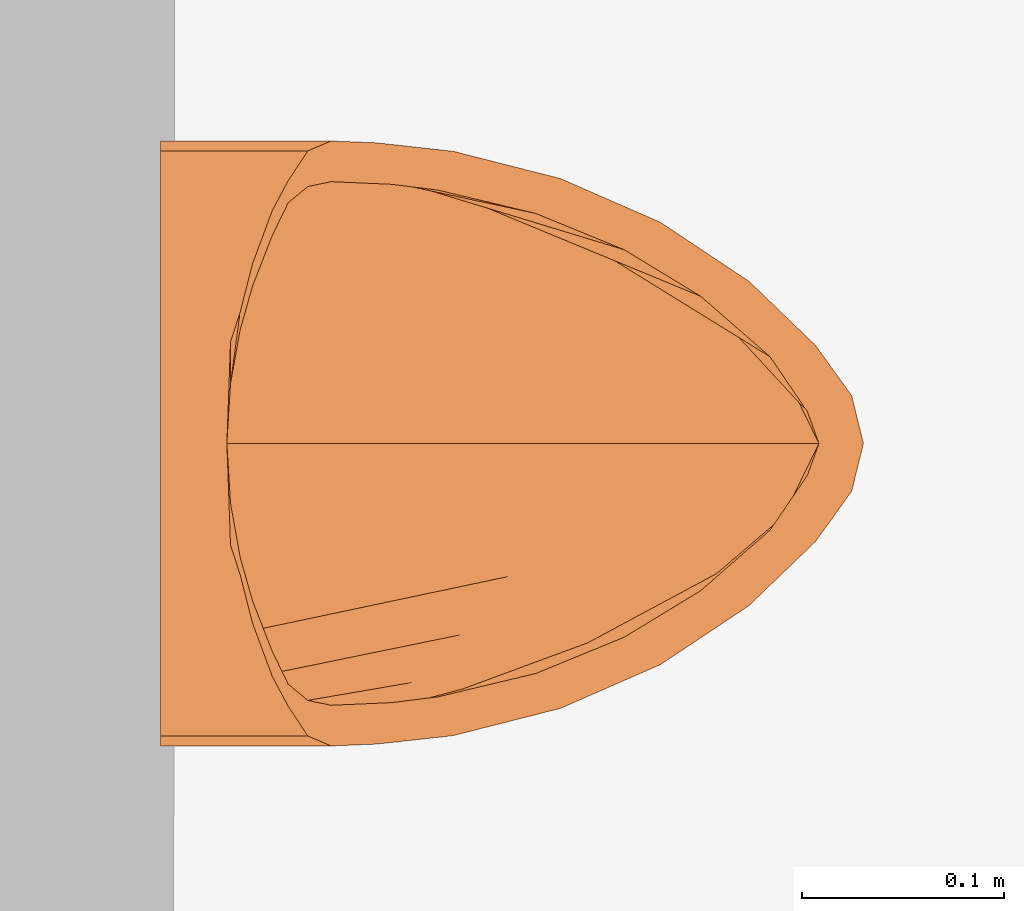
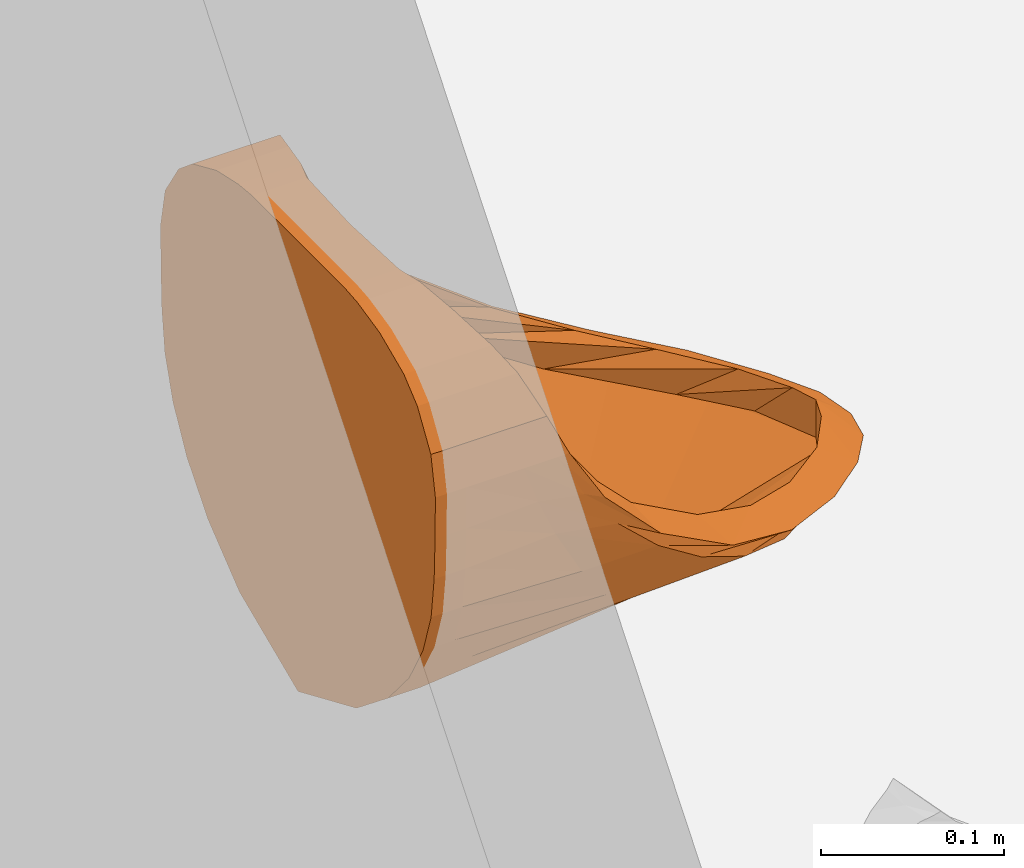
# One storey, part 195 of 196: 1 proxy.
"""IFC2X3 building model written with IfcOpenShell, lengths in metres."""

from ifc_helpers import new_model, entity, si_unit, converted_unit, derived_unit, money_unit, direction, frame, origin_with_axes, place, context, subcontext, project, spatial, open_shell, faceted_brep, surface_model, type_object, element, save


model = new_model("IFC2X3")

# Units and contexts
model_context = context("Model", 3, precision=1e-05, world=origin_with_axes(), true_north=direction((0.0, 1.0)))
body_context = subcontext(model_context, "Body", "Model", "MODEL_VIEW")
ifc_project = project(units=[si_unit("LENGTHUNIT", "METRE"), si_unit("AREAUNIT", "SQUARE_METRE"), si_unit("VOLUMEUNIT", "CUBIC_METRE"), converted_unit("PLANEANGLEUNIT", "DEGREE", entity("IfcPlaneAngleMeasure", 0.0174532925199), si_unit("PLANEANGLEUNIT", "RADIAN"), dimensions=[0, 0, 0, 0, 0, 0, 0]), money_unit("EUR"), converted_unit("TIMEUNIT", "Year", entity("IfcTimeMeasure", 31556926.0), si_unit("TIMEUNIT", "SECOND"), dimensions=[0, 0, 1, 0, 0, 0, 0]), si_unit("MASSUNIT", "GRAM", prefix="KILO"), si_unit("THERMODYNAMICTEMPERATUREUNIT", "DEGREE_CELSIUS"), si_unit("LUMINOUSINTENSITYUNIT", "LUMEN"), si_unit("ENERGYUNIT", "JOULE", prefix="MEGA"), derived_unit("THERMALCONDUCTANCEUNIT", [(si_unit("POWERUNIT", "WATT"), 1), (si_unit("LENGTHUNIT", "METRE"), -1), (si_unit("THERMODYNAMICTEMPERATUREUNIT", "KELVIN"), -1)]), derived_unit("SPECIFICHEATCAPACITYUNIT", [(si_unit("ENERGYUNIT", "JOULE"), 1), (si_unit("MASSUNIT", "GRAM", prefix="KILO"), -1), (si_unit("THERMODYNAMICTEMPERATUREUNIT", "KELVIN"), -1)]), derived_unit("MASSDENSITYUNIT", [(si_unit("MASSUNIT", "GRAM", prefix="KILO"), 1), (si_unit("VOLUMEUNIT", "CUBIC_METRE"), -1)])], contexts=[model_context])

# Site, building, storey
site_placement = place(None, origin_with_axes())
site = spatial("IfcSite", under=ifc_project, at=site_placement, Name="Gelände", CompositionType="ELEMENT")
building_placement = place(site_placement, origin_with_axes())
building = spatial("IfcBuilding", under=site, at=building_placement, Name="Gebäude", CompositionType="ELEMENT")
storey_placement = place(building_placement, frame((0.0, 0.0, -3.0), z_axis=(0.0, 0.0, 1.0), x_axis=(1.0, 0.0, 0.0)))
storey = spatial("IfcBuildingStorey", under=building, at=storey_placement, Name="KELLERGESCHOSS", CompositionType="ELEMENT", Elevation=-3.0)

# Proxy
building_element_proxy_type = type_object("IfcBuildingElementProxyType", Name="Urinal 1 25", PredefinedType="NOTDEFINED")
proxy_placement = place(storey_placement, frame((13.3724467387, 24.3963338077, -0.151496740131), z_axis=(0.0, 0.0, 1.0), x_axis=(0.0, 1.0, 0.0)))
element("IfcBuildingElementProxy", 1, at=proxy_placement, inside=storey, type_object=building_element_proxy_type, Name="Objekt-00220", context=body_context, shape_type="SurfaceModel", body=[
    faceted_brep([(0.0, 0.00657643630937, 1.0), (-0.0503710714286, 0.00657643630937, 0.999898), (-0.0503710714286, 0.0, 0.999898), (0.0, 0.0, 1.0), (0.0503710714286, 0.00657643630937, 0.999898), (0.0650260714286, 0.00657643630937, 0.998525), (0.0890367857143, 0.00657643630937, 0.993198), (0.115533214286, 0.00657643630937, 0.981535), (0.130329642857, 0.00657643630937, 0.969181), (0.1451025, 0.00657643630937, 0.945871), (0.15, 0.00657643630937, 0.920148), (0.149671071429, 0.00657643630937, 0.89263), (0.148683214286, 0.00657643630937, 0.865111), (0.145370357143, 0.00657643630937, 0.837593), (0.136527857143, 0.00657643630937, 0.810074), (0.121330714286, 0.00657643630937, 0.782556), (0.0982478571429, 0.00657643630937, 0.755037), (0.0638796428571, 0.00657643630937, 0.727519), (0.0, 0.00657643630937, 0.7), (-0.0638796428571, 0.00657643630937, 0.727519), (-0.0982478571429, 0.00657643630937, 0.755037), (-0.121330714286, 0.00657643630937, 0.782556), (-0.136527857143, 0.00657643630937, 0.810074), (-0.145370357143, 0.00657643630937, 0.837593), (-0.148683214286, 0.00657643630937, 0.865111), (-0.149671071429, 0.00657643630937, 0.89263), (-0.15, 0.00657643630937, 0.920148), (-0.1451025, 0.00657643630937, 0.945871), (-0.130329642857, 0.00657643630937, 0.969181), (-0.115533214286, 0.00657643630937, 0.981535), (-0.0890367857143, 0.00657643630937, 0.993198), (-0.0650260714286, 0.00657643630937, 0.998525), (-0.0650260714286, 0.0, 0.998525), (-0.0890367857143, 0.0, 0.993198), (-0.115533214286, 0.0, 0.981535), (-0.130329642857, 0.0, 0.969181), (-0.1451025, 0.0, 0.945871), (-0.15, 0.0, 0.920148), (-0.149671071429, 0.0, 0.89263), (-0.148683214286, 0.0, 0.865111), (-0.145370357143, 0.0, 0.837593), (-0.136527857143, 0.0, 0.810074), (-0.121330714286, 0.0, 0.782556), (-0.0982478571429, 0.0, 0.755037), (-0.0638796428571, 0.0, 0.727519), (0.0, 0.0, 0.7), (0.0638796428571, 0.0, 0.727519), (0.0982478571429, 0.0, 0.755037), (0.121330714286, 0.0, 0.782556), (0.136527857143, 0.0, 0.810074), (0.145370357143, 0.0, 0.837593), (0.148683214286, 0.0, 0.865111), (0.149671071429, 0.0, 0.89263), (0.15, 0.0, 0.920148), (0.1451025, 0.0, 0.945871), (0.130329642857, 0.0, 0.969181), (0.115533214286, 0.0, 0.981535), (0.0890367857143, 0.0, 0.993198), (0.0650260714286, 0.0, 0.998525), (0.0503710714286, 0.0, 0.999898)], [[[0, 1, 2, 3]], [[0, 4, 5, 6, 7, 8, 9, 10, 11, 12, 13, 14, 15, 16, 17, 18, 19, 20, 21, 22, 23, 24, 25, 26, 27, 28, 29, 30, 31, 1]], [[1, 31, 32, 2]], [[3, 2, 32, 33, 34, 35, 36, 37, 38, 39, 40, 41, 42, 43, 44, 45, 46, 47, 48, 49, 50, 51, 52, 53, 54, 55, 56, 57, 58, 59]], [[4, 0, 3, 59]], [[5, 4, 59, 58]], [[6, 5, 58, 57]], [[7, 6, 57, 56]], [[8, 7, 56, 55]], [[9, 8, 55, 54]], [[10, 9, 54, 53]], [[11, 10, 53, 52]], [[12, 11, 52, 51]], [[13, 12, 51, 50]], [[14, 13, 50, 49]], [[15, 14, 49, 48]], [[16, 15, 48, 47]], [[17, 16, 47, 46]], [[18, 17, 46, 45]], [[19, 18, 45, 44]], [[20, 19, 44, 43]], [[21, 20, 43, 42]], [[22, 21, 42, 41]], [[23, 22, 41, 40]], [[24, 23, 40, 39]], [[25, 24, 39, 38]], [[26, 25, 38, 37]], [[27, 26, 37, 36]], [[28, 27, 36, 35]], [[29, 28, 35, 34]], [[30, 29, 34, 33]], [[31, 30, 33, 32]]]),
    surface_model("IfcShellBasedSurfaceModel", [(0.0, 0.0, 1.0), (0.0, -0.0131528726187, 1.0), (-0.0503710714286, -0.0131528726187, 0.999898), (0.0503710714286, 0.0, 0.999898), (-0.0503710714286, -0.019774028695, 0.999898), (-0.0503710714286, 0.0, 0.999898), (0.0503710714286, -0.0131528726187, 0.999898), (0.0, -0.0197293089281, 1.0), (-0.0650260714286, -0.0203777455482, 0.998525), (-0.0650260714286, -0.0131528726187, 0.998525), (0.0650260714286, 0.0, 0.998525), (-0.0503710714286, -0.0253127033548, 0.999898), (-0.0650260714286, -0.0261650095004, 0.998525), (-0.0650260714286, 0.0, 0.998525), (0.0650260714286, -0.0131528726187, 0.998525), (0.0503710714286, -0.019774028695, 0.999898), (0.0, -0.0252443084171, 1.0), (-0.0890367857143, -0.029683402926, 0.993198), (-0.0890367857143, -0.0226860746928, 0.993198), (-0.0890367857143, -0.0131528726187, 0.993198), (0.0890367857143, 0.0, 0.993198), (-0.0503710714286, -0.0281076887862, 0.999898), (-0.0650260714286, -0.032872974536, 0.998525), (-0.0890367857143, -0.0389995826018, 0.993198), (-0.0890367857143, 0.0, 0.993198), (0.0890367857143, -0.0131528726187, 0.993198), (0.0650260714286, -0.0203777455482, 0.998525), (0.0503710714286, -0.0253127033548, 0.999898), (0.0, -0.0263057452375, 1.0), (-0.115533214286, -0.0488379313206, 0.981535), (-0.115533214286, -0.0370174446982, 0.981535), (-0.115533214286, -0.0275578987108, 0.981535), (-0.115533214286, -0.0131528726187, 0.981535), (0.115533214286, 0.0, 0.981535), (-0.115533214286, 0.0, 0.981535), (0.115533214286, -0.0131528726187, 0.981535), (0.0890367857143, -0.0226860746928, 0.993198), (0.0650260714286, -0.0261650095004, 0.998525), (0.0503710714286, -0.0281076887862, 0.999898), (-0.130329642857, -0.0567257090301, 0.969181), (-0.130329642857, -0.0444133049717, 0.969181), (-0.130329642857, -0.0324507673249, 0.969181), (-0.130329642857, -0.0131528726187, 0.969181), (0.130329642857, 0.0, 0.969181), (-0.130329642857, 0.0, 0.969181), (0.130329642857, -0.0131528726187, 0.969181), (0.115533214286, -0.0275578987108, 0.981535), (0.0890367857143, -0.029683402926, 0.993198), (0.0650260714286, -0.032872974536, 0.998525), (-0.1451025, -0.0664746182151, 0.945871), (-0.1451025, -0.057358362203, 0.945871), (-0.1451025, -0.0409448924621, 0.945871), (-0.1451025, -0.0131528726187, 0.945871), (0.1451025, 0.0, 0.945871), (-0.1451025, 0.0, 0.945871), (0.1451025, -0.0131528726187, 0.945871), (0.130329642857, -0.0324507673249, 0.969181), (0.115533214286, -0.0370174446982, 0.981535), (0.0890367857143, -0.0389995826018, 0.993198), (-0.15, -0.0780386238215, 0.920148), (-0.15, -0.0701705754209, 0.920148), (-0.15, -0.0492193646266, 0.920148), (-0.15, -0.0131528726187, 0.920148), (0.15, 0.0, 0.920148), (-0.15, 0.0, 0.920148), (0.15, -0.0131528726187, 0.920148), (0.1451025, -0.0409448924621, 0.945871), (0.130329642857, -0.0444133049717, 0.969181), (0.115533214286, -0.0488379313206, 0.981535), (-0.149088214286, -0.100704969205, 0.882346), (-0.148938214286, -0.0879703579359, 0.888729), (-0.148493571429, -0.0588854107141, 0.893637), (-0.149671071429, -0.0131528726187, 0.89263), (0.149671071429, 0.0, 0.89263), (-0.149671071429, 0.0, 0.89263), (0.149671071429, -0.0131528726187, 0.89263), (0.15, -0.0492193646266, 0.920148), (0.1451025, -0.057358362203, 0.945871), (0.130329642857, -0.0567257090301, 0.969181), (-0.144867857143, -0.138576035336, 0.842424), (-0.146004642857, -0.110916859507, 0.859303), (-0.1458225, -0.0713503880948, 0.866246), (-0.148683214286, -0.0131528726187, 0.865111), (0.148683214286, 0.0, 0.865111), (-0.148683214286, 0.0, 0.865111), (0.148683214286, -0.0131528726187, 0.865111), (0.148493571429, -0.0588854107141, 0.893637), (0.15, -0.0701705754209, 0.920148), (0.1451025, -0.0664746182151, 0.945871), (-0.131359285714, -0.191754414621, 0.807653), (-0.1416, -0.138632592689, 0.832354), (-0.137941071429, -0.092661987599, 0.829001), (-0.145370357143, -0.0131528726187, 0.837593), (0.145370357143, 0.0, 0.837593), (-0.145370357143, 0.0, 0.837593), (0.145370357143, -0.0131528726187, 0.837593), (0.1458225, -0.0713503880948, 0.866246), (0.148938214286, -0.0879703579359, 0.888729), (0.15, -0.0780386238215, 0.920148), (-0.109682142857, -0.241293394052, 0.787417), (-0.133041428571, -0.170661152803, 0.808327), (-0.118344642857, -0.119204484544, 0.792232), (-0.136527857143, -0.0131528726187, 0.810074), (0.136527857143, 0.0, 0.810074), (-0.136527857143, 0.0, 0.810074), (0.136527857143, -0.0131528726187, 0.810074), (0.137941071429, -0.092661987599, 0.829001), (0.146004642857, -0.110916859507, 0.859303), (0.149088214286, -0.100704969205, 0.882346), (-0.0803528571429, -0.285313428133, 0.776444), (-0.1187925, -0.206475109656, 0.787618), (-0.09477, -0.142754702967, 0.76517), (-0.121330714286, -0.0131528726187, 0.782556), (0.121330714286, 0.0, 0.782556), (-0.121330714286, 0.0, 0.782556), (0.121330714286, -0.0131528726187, 0.782556), (0.118344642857, -0.119204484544, 0.792232), (0.1416, -0.138632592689, 0.832354), (0.144867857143, -0.138576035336, 0.842424), (-0.0486064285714, -0.318235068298, 0.768676), (-0.0942653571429, -0.245482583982, 0.770567), (-0.0659742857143, -0.165889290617, 0.742159), (-0.0982478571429, -0.0131528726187, 0.755037), (0.0982478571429, 0.0, 0.755037), (-0.0982478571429, 0.0, 0.755037), (0.0982478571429, -0.0131528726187, 0.755037), (0.09477, -0.142754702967, 0.76517), (0.133041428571, -0.170661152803, 0.808327), (0.131359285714, -0.191754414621, 0.807653), (-0.0237192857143, -0.336140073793, 0.765137), (-0.0589767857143, -0.287041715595, 0.757456), (-0.0335507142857, -0.188126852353, 0.724265), (-0.0638796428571, -0.0131528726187, 0.727519), (0.0638796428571, 0.0, 0.727519), (-0.0638796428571, 0.0, 0.727519), (0.0638796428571, -0.0131528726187, 0.727519), (0.0659742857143, -0.165889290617, 0.742159), (0.1187925, -0.206475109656, 0.787618), (0.109682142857, -0.241293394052, 0.787417), (0.0, -0.341974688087, 0.763229), (0.0, -0.330467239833, 0.748501), (0.0, -0.208220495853, 0.712313), (0.0, -0.0131528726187, 0.7), (0.0, 0.0, 0.7), (0.0335507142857, -0.188126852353, 0.724265), (0.0942653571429, -0.245482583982, 0.770567), (0.0803528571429, -0.285313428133, 0.776444), (0.0237192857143, -0.336140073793, 0.765137), (0.0589767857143, -0.287041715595, 0.757456), (0.0486064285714, -0.318235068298, 0.768676)], [open_shell([[[0, 1, 2]], [[3, 1, 0]], [[1, 4, 2]], [[0, 2, 5]], [[3, 6, 1]], [[1, 7, 4]], [[2, 4, 8]], [[5, 2, 9]], [[10, 6, 3]], [[6, 7, 1]], [[7, 11, 4]], [[4, 12, 8]], [[2, 8, 9]], [[5, 9, 13]], [[10, 14, 6]], [[6, 15, 7]], [[7, 16, 11]], [[4, 11, 12]], [[8, 12, 17]], [[9, 8, 18]], [[13, 9, 19]], [[20, 14, 10]], [[14, 15, 6]], [[15, 16, 7]], [[16, 21, 11]], [[11, 22, 12]], [[12, 23, 17]], [[8, 17, 18]], [[9, 18, 19]], [[13, 19, 24]], [[20, 25, 14]], [[14, 26, 15]], [[15, 27, 16]], [[16, 28, 21]], [[11, 21, 22]], [[12, 22, 23]], [[17, 23, 29]], [[18, 17, 30]], [[19, 18, 31]], [[24, 19, 32]], [[33, 25, 20]], [[25, 26, 14]], [[26, 27, 15]], [[27, 28, 16]], [[17, 29, 30]], [[18, 30, 31]], [[19, 31, 32]], [[24, 32, 34]], [[33, 35, 25]], [[25, 36, 26]], [[26, 37, 27]], [[27, 38, 28]], [[30, 29, 39]], [[31, 30, 40]], [[32, 31, 41]], [[34, 32, 42]], [[43, 35, 33]], [[35, 36, 25]], [[36, 37, 26]], [[37, 38, 27]], [[30, 39, 40]], [[31, 40, 41]], [[32, 41, 42]], [[34, 42, 44]], [[43, 45, 35]], [[35, 46, 36]], [[36, 47, 37]], [[37, 48, 38]], [[40, 39, 49]], [[41, 40, 50]], [[42, 41, 51]], [[44, 42, 52]], [[53, 45, 43]], [[45, 46, 35]], [[46, 47, 36]], [[47, 48, 37]], [[40, 49, 50]], [[41, 50, 51]], [[42, 51, 52]], [[44, 52, 54]], [[53, 55, 45]], [[45, 56, 46]], [[46, 57, 47]], [[47, 58, 48]], [[50, 49, 59]], [[51, 50, 60]], [[52, 51, 61]], [[54, 52, 62]], [[63, 55, 53]], [[55, 56, 45]], [[56, 57, 46]], [[57, 58, 47]], [[50, 59, 60]], [[51, 60, 61]], [[52, 61, 62]], [[54, 62, 64]], [[63, 65, 55]], [[55, 66, 56]], [[56, 67, 57]], [[57, 68, 58]], [[60, 59, 69]], [[61, 60, 70]], [[62, 61, 71]], [[64, 62, 72]], [[73, 65, 63]], [[65, 66, 55]], [[66, 67, 56]], [[67, 68, 57]], [[60, 69, 70]], [[61, 70, 71]], [[62, 71, 72]], [[64, 72, 74]], [[73, 75, 65]], [[65, 76, 66]], [[66, 77, 67]], [[67, 78, 68]], [[70, 69, 79]], [[71, 70, 80]], [[72, 71, 81]], [[74, 72, 82]], [[83, 75, 73]], [[75, 76, 65]], [[76, 77, 66]], [[77, 78, 67]], [[70, 79, 80]], [[71, 80, 81]], [[72, 81, 82]], [[74, 82, 84]], [[83, 85, 75]], [[75, 86, 76]], [[76, 87, 77]], [[77, 88, 78]], [[80, 79, 89]], [[81, 80, 90]], [[82, 81, 91]], [[84, 82, 92]], [[93, 85, 83]], [[85, 86, 75]], [[86, 87, 76]], [[87, 88, 77]], [[80, 89, 90]], [[81, 90, 91]], [[82, 91, 92]], [[84, 92, 94]], [[93, 95, 85]], [[85, 96, 86]], [[86, 97, 87]], [[87, 98, 88]], [[90, 89, 99]], [[91, 90, 100]], [[92, 91, 101]], [[94, 92, 102]], [[103, 95, 93]], [[95, 96, 85]], [[96, 97, 86]], [[97, 98, 87]], [[90, 99, 100]], [[91, 100, 101]], [[92, 101, 102]], [[94, 102, 104]], [[103, 105, 95]], [[95, 106, 96]], [[96, 107, 97]], [[97, 108, 98]], [[100, 99, 109]], [[101, 100, 110]], [[102, 101, 111]], [[104, 102, 112]], [[113, 105, 103]], [[105, 106, 95]], [[106, 107, 96]], [[107, 108, 97]], [[100, 109, 110]], [[101, 110, 111]], [[102, 111, 112]], [[104, 112, 114]], [[113, 115, 105]], [[105, 116, 106]], [[106, 117, 107]], [[107, 118, 108]], [[110, 109, 119]], [[111, 110, 120]], [[112, 111, 121]], [[114, 112, 122]], [[123, 115, 113]], [[115, 116, 105]], [[116, 117, 106]], [[117, 118, 107]], [[110, 119, 120]], [[111, 120, 121]], [[112, 121, 122]], [[114, 122, 124]], [[123, 125, 115]], [[115, 126, 116]], [[116, 127, 117]], [[117, 128, 118]], [[120, 119, 129]], [[121, 120, 130]], [[122, 121, 131]], [[124, 122, 132]], [[133, 125, 123]], [[125, 126, 115]], [[126, 127, 116]], [[127, 128, 117]], [[120, 129, 130]], [[121, 130, 131]], [[122, 131, 132]], [[124, 132, 134]], [[133, 135, 125]], [[125, 136, 126]], [[126, 137, 127]], [[127, 138, 128]], [[130, 129, 139]], [[131, 130, 140]], [[132, 131, 141]], [[134, 132, 142]], [[143, 135, 133]], [[135, 136, 125]], [[136, 137, 126]], [[137, 138, 127]], [[130, 139, 140]], [[131, 140, 141]], [[132, 141, 142]], [[134, 142, 143]], [[143, 142, 135]], [[135, 144, 136]], [[136, 145, 137]], [[137, 146, 138]], [[140, 139, 147]], [[141, 140, 148]], [[142, 141, 144]], [[142, 144, 135]], [[144, 145, 136]], [[145, 146, 137]], [[140, 147, 148]], [[141, 148, 144]], [[144, 148, 145]], [[145, 149, 146]], [[148, 147, 149]], [[148, 149, 145]]])]),
    surface_model("IfcShellBasedSurfaceModel", [(0.0, -0.0263057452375, 1.0), (0.0, -0.0263057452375, 0.99), (-0.0295992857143, -0.0281076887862, 0.988966), (0.0503710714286, -0.0281076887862, 0.999898), (-0.0503710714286, -0.0281076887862, 0.999898), (0.0295992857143, -0.0281076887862, 0.988966), (-0.056325, -0.032872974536, 0.98626), (0.0650260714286, -0.032872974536, 0.998525), (-0.0650260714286, -0.032872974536, 0.998525), (0.056325, -0.032872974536, 0.98626), (-0.0779764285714, -0.0389995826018, 0.98082), (0.0890367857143, -0.0389995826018, 0.993198), (-0.0890367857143, -0.0389995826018, 0.993198), (0.0779764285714, -0.0389995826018, 0.98082), (-0.103178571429, -0.0488379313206, 0.968491), (0.115533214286, -0.0488379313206, 0.981535), (-0.115533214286, -0.0488379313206, 0.981535), (0.103178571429, -0.0488379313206, 0.968491), (-0.119395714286, -0.0567257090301, 0.952746), (0.130329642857, -0.0567257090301, 0.969181), (-0.130329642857, -0.0567257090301, 0.969181), (0.119395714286, -0.0567257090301, 0.952746), (-0.127429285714, -0.0664746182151, 0.936322), (0.1451025, -0.0664746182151, 0.945871), (-0.1451025, -0.0664746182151, 0.945871), (0.127429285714, -0.0664746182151, 0.936322), (-0.129833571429, -0.0780386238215, 0.920148), (0.15, -0.0780386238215, 0.920148), (-0.15, -0.0780386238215, 0.920148), (0.129833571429, -0.0780386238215, 0.920148), (-0.128517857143, -0.107823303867, 0.87807), (0.149088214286, -0.100704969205, 0.882346), (-0.149088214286, -0.100704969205, 0.882346), (0.128517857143, -0.107823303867, 0.87807), (-0.125659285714, -0.130925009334, 0.854025), (0.144867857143, -0.138576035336, 0.842424), (-0.144867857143, -0.138576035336, 0.842424), (0.125659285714, -0.130925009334, 0.854025), (-0.114079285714, -0.179436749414, 0.821972), (0.131359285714, -0.191754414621, 0.807653), (-0.131359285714, -0.191754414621, 0.807653), (0.114079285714, -0.179436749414, 0.821972), (-0.09609, -0.223319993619, 0.801839), (0.109682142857, -0.241293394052, 0.787417), (-0.109682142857, -0.241293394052, 0.787417), (0.09609, -0.223319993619, 0.801839), (-0.0730071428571, -0.261255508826, 0.790008), (0.0803528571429, -0.285313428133, 0.776444), (-0.0803528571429, -0.285313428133, 0.776444), (0.0730071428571, -0.261255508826, 0.790008), (-0.0429910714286, -0.295670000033, 0.783002), (0.0486064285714, -0.318235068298, 0.768676), (-0.0486064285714, -0.318235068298, 0.768676), (0.0429910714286, -0.295670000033, 0.783002), (-0.0157767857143, -0.314187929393, 0.78057), (0.0237192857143, -0.336140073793, 0.765137), (-0.0237192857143, -0.336140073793, 0.765137), (0.0157767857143, -0.314187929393, 0.78057), (0.0, -0.319916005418, 0.78), (0.0, -0.341974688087, 0.763229)], [open_shell([[[0, 1, 2]], [[3, 1, 0]], [[0, 2, 4]], [[3, 5, 1]], [[4, 2, 6]], [[7, 5, 3]], [[4, 6, 8]], [[7, 9, 5]], [[8, 6, 10]], [[11, 9, 7]], [[8, 10, 12]], [[11, 13, 9]], [[12, 10, 14]], [[15, 13, 11]], [[12, 14, 16]], [[15, 17, 13]], [[16, 14, 18]], [[19, 17, 15]], [[16, 18, 20]], [[19, 21, 17]], [[20, 18, 22]], [[23, 21, 19]], [[20, 22, 24]], [[23, 25, 21]], [[24, 22, 26]], [[27, 25, 23]], [[24, 26, 28]], [[27, 29, 25]], [[28, 26, 30]], [[31, 29, 27]], [[28, 30, 32]], [[31, 33, 29]], [[32, 30, 34]], [[35, 33, 31]], [[32, 34, 36]], [[35, 37, 33]], [[36, 34, 38]], [[39, 37, 35]], [[36, 38, 40]], [[39, 41, 37]], [[40, 38, 42]], [[43, 41, 39]], [[40, 42, 44]], [[43, 45, 41]], [[44, 42, 46]], [[47, 45, 43]], [[44, 46, 48]], [[47, 49, 45]], [[48, 46, 50]], [[51, 49, 47]], [[48, 50, 52]], [[51, 53, 49]], [[52, 50, 54]], [[55, 53, 51]], [[52, 54, 56]], [[55, 57, 53]], [[56, 54, 58]], [[59, 57, 55]], [[56, 58, 59]], [[59, 58, 57]]])]),
    surface_model("IfcShellBasedSurfaceModel", [(0.0, -0.0263057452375, 0.99), (0.0, -0.018854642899, 0.965651), (-0.0274382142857, -0.0218903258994, 0.964581), (0.0295992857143, -0.0281076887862, 0.988966), (-0.0295992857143, -0.0281076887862, 0.988966), (0.0274382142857, -0.0218903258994, 0.964581), (-0.0502746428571, -0.0244919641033, 0.962521), (0.056325, -0.032872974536, 0.98626), (-0.056325, -0.032872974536, 0.98626), (0.0502746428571, -0.0244919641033, 0.962521), (-0.0711675, -0.0262741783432, 0.959712), (0.0779764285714, -0.0389995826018, 0.98082), (-0.0779764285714, -0.0389995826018, 0.98082), (0.0711675, -0.0262741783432, 0.959712), (-0.0919746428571, -0.0290533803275, 0.954245), (0.103178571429, -0.0488379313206, 0.968491), (-0.103178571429, -0.0488379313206, 0.968491), (0.0919746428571, -0.0290533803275, 0.954245), (-0.111946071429, -0.0326927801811, 0.945674), (0.119395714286, -0.0567257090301, 0.952746), (-0.119395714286, -0.0567257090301, 0.952746), (0.111946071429, -0.0326927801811, 0.945674), (-0.123648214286, -0.0364505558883, 0.937494), (0.127429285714, -0.0664746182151, 0.936322), (-0.127429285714, -0.0664746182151, 0.936322), (0.123648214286, -0.0364505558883, 0.937494), (-0.136245, -0.0422917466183, 0.920148), (0.129833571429, -0.0780386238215, 0.920148), (-0.129833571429, -0.0780386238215, 0.920148), (0.136245, -0.0422917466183, 0.920148), (-0.136804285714, -0.0581659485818, 0.892365), (0.128517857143, -0.107823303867, 0.87807), (-0.128517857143, -0.107823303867, 0.87807), (0.136804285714, -0.0581659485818, 0.892365), (-0.135535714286, -0.0796445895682, 0.864684), (0.125659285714, -0.130925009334, 0.854025), (-0.125659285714, -0.130925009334, 0.854025), (0.135535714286, -0.0796445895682, 0.864684), (-0.131289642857, -0.107599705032, 0.837549), (0.114079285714, -0.179436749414, 0.821972), (-0.114079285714, -0.179436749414, 0.821972), (0.131289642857, -0.107599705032, 0.837549), (-0.121640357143, -0.143532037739, 0.811391), (0.09609, -0.223319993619, 0.801839), (-0.09609, -0.223319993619, 0.801839), (0.121640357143, -0.143532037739, 0.811391), (-0.0988671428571, -0.205233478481, 0.780769), (0.0730071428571, -0.261255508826, 0.790008), (-0.0730071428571, -0.261255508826, 0.790008), (0.0988671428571, -0.205233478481, 0.780769), (-0.0645653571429, -0.269091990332, 0.762219), (0.0429910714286, -0.295670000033, 0.783002), (-0.0429910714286, -0.295670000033, 0.783002), (0.0645653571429, -0.269091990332, 0.762219), (-0.0362764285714, -0.302197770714, 0.756815), (0.0157767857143, -0.314187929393, 0.78057), (-0.0157767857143, -0.314187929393, 0.78057), (0.0362764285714, -0.302197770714, 0.756815), (0.0, -0.319916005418, 0.755), (0.0, -0.319916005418, 0.78)], [open_shell([[[0, 1, 2]], [[3, 1, 0]], [[0, 2, 4]], [[3, 5, 1]], [[4, 2, 6]], [[7, 5, 3]], [[4, 6, 8]], [[7, 9, 5]], [[8, 6, 10]], [[11, 9, 7]], [[8, 10, 12]], [[11, 13, 9]], [[12, 10, 14]], [[15, 13, 11]], [[12, 14, 16]], [[15, 17, 13]], [[16, 14, 18]], [[19, 17, 15]], [[16, 18, 20]], [[19, 21, 17]], [[20, 18, 22]], [[23, 21, 19]], [[20, 22, 24]], [[23, 25, 21]], [[24, 22, 26]], [[27, 25, 23]], [[24, 26, 28]], [[27, 29, 25]], [[28, 26, 30]], [[31, 29, 27]], [[28, 30, 32]], [[31, 33, 29]], [[32, 30, 34]], [[35, 33, 31]], [[32, 34, 36]], [[35, 37, 33]], [[36, 34, 38]], [[39, 37, 35]], [[36, 38, 40]], [[39, 41, 37]], [[40, 38, 42]], [[43, 41, 39]], [[40, 42, 44]], [[43, 45, 41]], [[44, 42, 46]], [[47, 45, 43]], [[44, 46, 48]], [[47, 49, 45]], [[48, 46, 50]], [[51, 49, 47]], [[48, 50, 52]], [[51, 53, 49]], [[52, 50, 54]], [[55, 53, 51]], [[52, 54, 56]], [[55, 57, 53]], [[56, 54, 58]], [[59, 57, 55]], [[56, 58, 59]], [[59, 58, 57]]])]),
])

save(model, "model.ifc")
